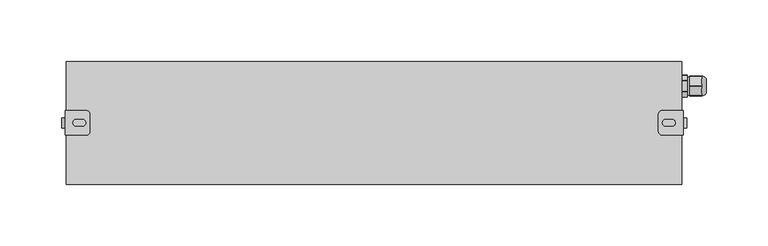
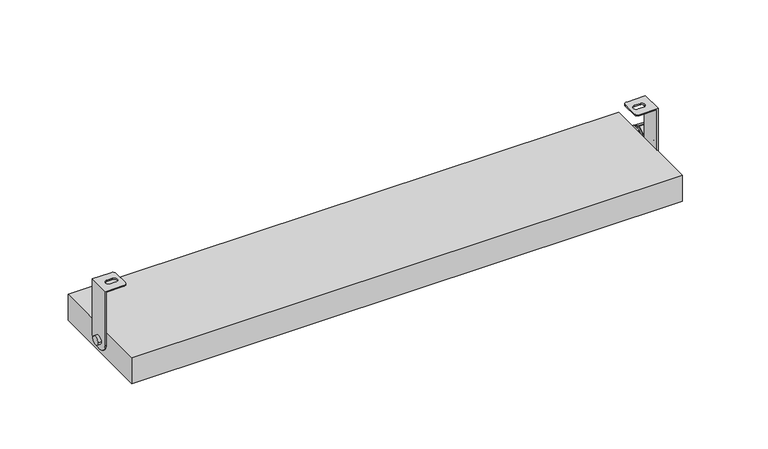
"""IFC4 building model written with IfcOpenShell, lengths in millimetres: light fixture geometry, GENILED_Светильник светодиодный_Titan Advanced : Titan Advanced 500x100x25 20Вт IP66 Опал."""

from ifc_helpers import new_model, si_unit, point, frame, frame_2d, origin, origin_with_axes, place, context, project, spatial, polyline, circle_curve, ellipse_curve, trimmed, segment, composite_curve, outline, extrude, source, transform, mapped, element, save
from ifc_brep_helpers import plane_surface, cylinder_surface, revolved_surface, advanced_brep


def light_fixture_d8a4bb4c(model_context):
    return source(origin(), model_context, "Body", "SolidModel", [
        advanced_brep(
        [(-234.0, 10.0, 64.5), (-251.0, 10.0, 64.5), (-251.0, -10.0, 64.5), (-234.0, -10.0, 64.5), (-231.0, -7.0, 64.5), (-231.0, 7.0, 64.5), (-237.0, 2.75, 64.5), (-237.0, -2.75, 64.5), (-242.0, -2.75, 64.5), (-242.0, 2.75, 64.5), (-234.0, -10.0, 63.5), (-250.0, -10.0, 63.5), (-250.0, 10.0, 63.5), (-234.0, 10.0, 63.5), (-231.0, 7.0, 63.5), (-231.0, -7.0, 63.5), (-237.0, 2.75, 63.5), (-242.0, 2.75, 63.5), (-242.0, -2.75, 63.5), (-237.0, -2.75, 63.5), (-251.0, -10.0, 12.5), (-250.0, -10.0, 12.5), (-251.0, 10.0, 12.5), (-251.0, 2.0, 4.5), (-251.0, -2.0, 4.5), (-251.0, 4.0, 12.5), (-251.0, -4.0, 12.5), (-250.0, 10.0, 12.5), (-250.0, -2.0, 4.5), (-250.0, 2.0, 4.5), (-254.0, -4.0, 12.5), (-254.0, 4.0, 12.5)],
        [
            (0, 1),
            (1, 2),
            (2, 3),
            (3, 4, circle_curve(frame((-234.0, -7.0, 64.5), z_axis=(0.0, 0.0, 1.0), x_axis=(-1.0, 0.0, 0.0)), 3.0)),
            (4, 5),
            (5, 0, circle_curve(frame((-234.0, 7.0, 64.5), z_axis=(0.0, 0.0, 1.0), x_axis=(-1.0, 0.0, 0.0)), 3.0)),
            (6, 7, circle_curve(frame((-237.0, 0.0, 64.5), z_axis=(0.0, 0.0, -1.0), x_axis=(-1.0, 0.0, 0.0)), 2.75)),
            (7, 8),
            (8, 9, circle_curve(frame((-242.0, 0.0, 64.5), z_axis=(0.0, 0.0, -1.0), x_axis=(-1.0, 0.0, 0.0)), 2.75)),
            (9, 6),
            (10, 11),
            (11, 12),
            (12, 13),
            (13, 14, circle_curve(frame((-234.0, 7.0, 63.5), z_axis=(0.0, 0.0, -1.0), x_axis=(-1.0, 0.0, 0.0)), 3.0)),
            (14, 15),
            (15, 10, circle_curve(frame((-234.0, -7.0, 63.5), z_axis=(0.0, 0.0, -1.0), x_axis=(-1.0, 0.0, 0.0)), 3.0)),
            (16, 17),
            (17, 18, circle_curve(frame((-242.0, 0.0, 63.5), z_axis=(0.0, 0.0, 1.0), x_axis=(-1.0, 0.0, 0.0)), 2.75)),
            (18, 19),
            (19, 16, circle_curve(frame((-237.0, 0.0, 63.5), z_axis=(0.0, 0.0, 1.0), x_axis=(-1.0, 0.0, 0.0)), 2.75)),
            (5, 14),
            (13, 0),
            (4, 15),
            (3, 10),
            (2, 20),
            (20, 21),
            (21, 11),
            (1, 22),
            (22, 23, circle_curve(frame((-251.0, 2.0, 12.5), z_axis=(-1.0, 0.0, 0.0), x_axis=(0.0, 1.0, 0.0)), 8.0)),
            (23, 24),
            (24, 20, circle_curve(frame((-251.0, -2.0, 12.5), z_axis=(-1.0, 0.0, 0.0), x_axis=(0.0, 1.0, 0.0)), 8.0)),
            (25, 26, circle_curve(frame((-251.0, 0.0, 12.5), z_axis=(1.0, 0.0, 0.0), x_axis=(0.0, 1.0, 0.0)), 4.0)),
            (26, 25, circle_curve(frame((-251.0, 0.0, 12.5), z_axis=(1.0, 0.0, 0.0), x_axis=(0.0, 1.0, 0.0)), 4.0)),
            (12, 27),
            (27, 22),
            (9, 17),
            (16, 6),
            (8, 18),
            (7, 19),
            (21, 28, circle_curve(frame((-250.0, -2.0, 12.5), z_axis=(1.0, 0.0, 0.0), x_axis=(0.0, 1.0, 0.0)), 8.0)),
            (28, 29),
            (29, 27, circle_curve(frame((-250.0, 2.0, 12.5), z_axis=(1.0, 0.0, 0.0), x_axis=(0.0, 1.0, 0.0)), 8.0)),
            (24, 28),
            (23, 29),
            (30, 31, circle_curve(frame((-254.0, 0.0, 12.5), z_axis=(-1.0, 0.0, 0.0), x_axis=(0.0, 1.0, 0.0)), 4.0)),
            (31, 30, circle_curve(frame((-254.0, 0.0, 12.5), z_axis=(-1.0, 0.0, 0.0), x_axis=(0.0, 1.0, 0.0)), 4.0)),
            (31, 25),
            (26, 30),
        ],
        [
            plane_surface(frame((-237.0, 7.0, 64.5), z_axis=(0.0, 0.0, 1.0), x_axis=(0.0, 1.0, 0.0))),
            plane_surface(frame((-237.0, 7.0, 63.5), z_axis=(0.0, 0.0, -1.0), x_axis=(0.0, -1.0, 0.0))),
            cylinder_surface(frame((-234.0, 7.0, 63.5), z_axis=(0.0, 0.0, 1.0), x_axis=(-1.0, 0.0, 0.0)), 3.0),
            plane_surface(frame((-231.0, 7.0, 64.5), z_axis=(1.0, 0.0, 0.0), x_axis=(0.0, 0.0, -1.0))),
            cylinder_surface(frame((-234.0, -7.0, 63.5), z_axis=(0.0, 0.0, 1.0), x_axis=(-1.0, 0.0, 0.0)), 3.0),
            plane_surface(frame((-234.0, -10.0, 64.5), z_axis=(0.0, -1.0, 0.0), x_axis=(0.0, 0.0, -1.0))),
            plane_surface(frame((-251.0, -10.0, 64.5), z_axis=(-1.0, 0.0, 0.0), x_axis=(0.0, 0.0, -1.0))),
            plane_surface(frame((-251.0, 10.0, 64.5), z_axis=(0.0, 1.0, 0.0), x_axis=(0.0, 0.0, -1.0))),
            plane_surface(frame((-237.0, 2.75, 64.5), z_axis=(0.0, -1.0, 0.0), x_axis=(0.0, 0.0, -1.0))),
            revolved_surface(polyline([(-244.75, 0.0, 63.5), (-244.75, 0.0, 64.5)]), (-242.0, 0.0, 12.5), (0.0, 0.0, -1.0)),
            plane_surface(frame((-242.0, -2.75, 64.5), z_axis=(0.0, 1.0, 0.0), x_axis=(0.0, 0.0, -1.0))),
            revolved_surface(polyline([(-239.75, 0.0, 63.5), (-239.75, 0.0, 64.5)]), (-237.0, 0.0, 12.5), (0.0, 0.0, -1.0)),
            plane_surface(frame((-250.0, -10.0, 64.5), z_axis=(1.0, 0.0, 0.0), x_axis=(0.0, 1.0, 0.0))),
            cylinder_surface(frame((-250.0, -2.0, 12.5), z_axis=(-1.0, 0.0, 0.0), x_axis=(0.0, 1.0, 0.0)), 8.0),
            plane_surface(frame((-251.0, -2.0, 4.5), z_axis=(0.0, 0.0, -1.0), x_axis=(1.0, 0.0, 0.0))),
            cylinder_surface(frame((-250.0, 2.0, 12.5), z_axis=(-1.0, 0.0, 0.0), x_axis=(0.0, 1.0, 0.0)), 8.0),
            plane_surface(frame((-254.0, 4.0, 12.5), z_axis=(-1.0, 0.0, 0.0), x_axis=(0.0, 0.0, 1.0))),
            cylinder_surface(frame((-251.0, 0.0, 12.5), z_axis=(-1.0, 0.0, 0.0), x_axis=(0.0, 1.0, 0.0)), 4.0),
        ],
        [
            (0, [[1, 2, 3, 4, 5, 6], [7, 8, 9, 10]]),
            (1, [[11, 12, 13, 14, 15, 16], [17, 18, 19, 20]]),
            (2, [[21, -14, 22, -6]]),
            (3, [[23, -15, -21, -5]]),
            (4, [[24, -16, -23, -4]]),
            (5, [[-3, 25, 26, 27, -11, -24]]),
            (6, [[28, 29, 30, 31, -25, -2], [32, 33]]),
            (7, [[-13, 34, 35, -28, -1, -22]]),
            (8, [[36, -17, 37, -10]]),
            (9, [[38, -18, -36, -9]]),
            (10, [[39, -19, -38, -8]]),
            (11, [[-37, -20, -39, -7]]),
            (12, [[-34, -12, -27, 40, 41, 42]]),
            (13, [[43, -40, -26, -31]]),
            (14, [[44, -41, -43, -30]]),
            (15, [[-35, -42, -44, -29]]),
            (16, [[45, 46]]),
            (17, [[47, -33, 48, -46]]),
            (17, [[-48, -32, -47, -45]]),
        ],
    ),
        advanced_brep(
        [(234.0, 10.0, 64.5), (231.0, 7.0, 64.5), (231.0, -7.0, 64.5), (234.0, -10.0, 64.5), (251.0, -10.0, 64.5), (251.0, 10.0, 64.5), (237.0, 2.75, 64.5), (242.0, 2.75, 64.5), (242.0, -2.75, 64.5), (237.0, -2.75, 64.5), (234.0, -10.0, 63.5), (231.0, -7.0, 63.5), (231.0, 7.0, 63.5), (234.0, 10.0, 63.5), (250.0, 10.0, 63.5), (250.0, -10.0, 63.5), (237.0, 2.75, 63.5), (237.0, -2.75, 63.5), (242.0, -2.75, 63.5), (242.0, 2.75, 63.5), (250.0, -10.0, 12.5), (251.0, -10.0, 12.5), (251.0, -2.0, 4.5), (251.0, 2.0, 4.5), (251.0, 10.0, 12.5), (251.0, 4.0, 12.5), (251.0, -4.0, 12.5), (250.0, 10.0, 12.5), (250.0, 2.0, 4.5), (250.0, -2.0, 4.5), (254.0, -4.0, 12.5), (254.0, 4.0, 12.5)],
        [
            (0, 1, circle_curve(frame((234.0, 7.0, 64.5), z_axis=(0.0, 0.0, 1.0), x_axis=(1.0, 0.0, 0.0)), 3.0)),
            (1, 2),
            (2, 3, circle_curve(frame((234.0, -7.0, 64.5), z_axis=(0.0, 0.0, 1.0), x_axis=(1.0, 0.0, 0.0)), 3.0)),
            (3, 4),
            (4, 5),
            (5, 0),
            (6, 7),
            (7, 8, circle_curve(frame((242.0, 0.0, 64.5), z_axis=(0.0, 0.0, -1.0), x_axis=(1.0, 0.0, 0.0)), 2.75)),
            (8, 9),
            (9, 6, circle_curve(frame((237.0, 0.0, 64.5), z_axis=(0.0, 0.0, -1.0), x_axis=(1.0, 0.0, 0.0)), 2.75)),
            (10, 11, circle_curve(frame((234.0, -7.0, 63.5), z_axis=(0.0, 0.0, -1.0), x_axis=(1.0, 0.0, 0.0)), 3.0)),
            (11, 12),
            (12, 13, circle_curve(frame((234.0, 7.0, 63.5), z_axis=(0.0, 0.0, -1.0), x_axis=(1.0, 0.0, 0.0)), 3.0)),
            (13, 14),
            (14, 15),
            (15, 10),
            (16, 17, circle_curve(frame((237.0, 0.0, 63.5), z_axis=(0.0, 0.0, 1.0), x_axis=(1.0, 0.0, 0.0)), 2.75)),
            (17, 18),
            (18, 19, circle_curve(frame((242.0, 0.0, 63.5), z_axis=(0.0, 0.0, 1.0), x_axis=(1.0, 0.0, 0.0)), 2.75)),
            (19, 16),
            (0, 13),
            (12, 1),
            (11, 2),
            (10, 3),
            (15, 20),
            (20, 21),
            (21, 4),
            (21, 22, circle_curve(frame((251.0, -2.0, 12.5), z_axis=(1.0, 0.0, 0.0), x_axis=(0.0, 1.0, 0.0)), 8.0)),
            (22, 23),
            (23, 24, circle_curve(frame((251.0, 2.0, 12.5), z_axis=(1.0, 0.0, 0.0), x_axis=(0.0, 1.0, 0.0)), 8.0)),
            (24, 5),
            (25, 26, circle_curve(frame((251.0, 0.0, 12.5), z_axis=(-1.0, 0.0, 0.0), x_axis=(0.0, 1.0, 0.0)), 4.0)),
            (26, 25, circle_curve(frame((251.0, 0.0, 12.5), z_axis=(-1.0, 0.0, 0.0), x_axis=(0.0, 1.0, 0.0)), 4.0)),
            (24, 27),
            (27, 14),
            (6, 16),
            (19, 7),
            (18, 8),
            (17, 9),
            (27, 28, circle_curve(frame((250.0, 2.0, 12.5), z_axis=(-1.0, 0.0, 0.0), x_axis=(0.0, 1.0, 0.0)), 8.0)),
            (28, 29),
            (29, 20, circle_curve(frame((250.0, -2.0, 12.5), z_axis=(-1.0, 0.0, 0.0), x_axis=(0.0, 1.0, 0.0)), 8.0)),
            (29, 22),
            (28, 23),
            (30, 31, circle_curve(frame((254.0, 0.0, 12.5), z_axis=(1.0, 0.0, 0.0), x_axis=(0.0, 1.0, 0.0)), 4.0)),
            (31, 30, circle_curve(frame((254.0, 0.0, 12.5), z_axis=(1.0, 0.0, 0.0), x_axis=(0.0, 1.0, 0.0)), 4.0)),
            (30, 26),
            (25, 31),
        ],
        [
            plane_surface(frame((237.0, 7.0, 64.5), z_axis=(0.0, 0.0, 1.0), x_axis=(0.0, 1.0, 0.0))),
            plane_surface(frame((237.0, 7.0, 63.5), z_axis=(0.0, 0.0, -1.0), x_axis=(0.0, -1.0, 0.0))),
            cylinder_surface(frame((234.0, 7.0, 63.5), z_axis=(0.0, 0.0, 1.0), x_axis=(1.0, 0.0, 0.0)), 3.0),
            plane_surface(frame((231.0, 7.0, 64.5), z_axis=(-1.0, 0.0, 0.0), x_axis=(0.0, 0.0, -1.0))),
            cylinder_surface(frame((234.0, -7.0, 63.5), z_axis=(0.0, 0.0, 1.0), x_axis=(1.0, 0.0, 0.0)), 3.0),
            plane_surface(frame((234.0, -10.0, 64.5), z_axis=(0.0, -1.0, 0.0), x_axis=(0.0, 0.0, -1.0))),
            plane_surface(frame((251.0, -10.0, 64.5), z_axis=(1.0, 0.0, 0.0), x_axis=(0.0, 0.0, -1.0))),
            plane_surface(frame((251.0, 10.0, 64.5), z_axis=(0.0, 1.0, 0.0), x_axis=(0.0, 0.0, -1.0))),
            plane_surface(frame((237.0, 2.75, 64.5), z_axis=(0.0, -1.0, 0.0), x_axis=(0.0, 0.0, -1.0))),
            revolved_surface(polyline([(244.75, 0.0, 63.5), (244.75, 0.0, 64.5)]), (242.0, 0.0, 12.5), (0.0, 0.0, -1.0)),
            plane_surface(frame((242.0, -2.75, 64.5), z_axis=(0.0, 1.0, 0.0), x_axis=(0.0, 0.0, -1.0))),
            revolved_surface(polyline([(239.75, 0.0, 63.5), (239.75, 0.0, 64.5)]), (237.0, 0.0, 12.5), (0.0, 0.0, -1.0)),
            plane_surface(frame((250.0, -10.0, 64.5), z_axis=(-1.0, 0.0, 0.0), x_axis=(0.0, 1.0, 0.0))),
            cylinder_surface(frame((250.0, -2.0, 12.5), z_axis=(1.0, 0.0, 0.0), x_axis=(0.0, 1.0, 0.0)), 8.0),
            plane_surface(frame((251.0, -2.0, 4.5), z_axis=(0.0, 0.0, -1.0), x_axis=(-1.0, 0.0, 0.0))),
            cylinder_surface(frame((250.0, 2.0, 12.5), z_axis=(1.0, 0.0, 0.0), x_axis=(0.0, 1.0, 0.0)), 8.0),
            plane_surface(frame((254.0, 4.0, 12.5), z_axis=(1.0, 0.0, 0.0), x_axis=(0.0, 0.0, 1.0))),
            cylinder_surface(frame((251.0, 0.0, 12.5), z_axis=(1.0, 0.0, 0.0), x_axis=(0.0, 1.0, 0.0)), 4.0),
        ],
        [
            (0, [[1, 2, 3, 4, 5, 6], [7, 8, 9, 10]]),
            (1, [[11, 12, 13, 14, 15, 16], [17, 18, 19, 20]]),
            (2, [[-1, 21, -13, 22]]),
            (3, [[-2, -22, -12, 23]]),
            (4, [[-3, -23, -11, 24]]),
            (5, [[-24, -16, 25, 26, 27, -4]]),
            (6, [[-5, -27, 28, 29, 30, 31], [32, 33]]),
            (7, [[-21, -6, -31, 34, 35, -14]]),
            (8, [[-7, 36, -20, 37]]),
            (9, [[-8, -37, -19, 38]]),
            (10, [[-9, -38, -18, 39]]),
            (11, [[-10, -39, -17, -36]]),
            (12, [[40, 41, 42, -25, -15, -35]]),
            (13, [[-28, -26, -42, 43]]),
            (14, [[-29, -43, -41, 44]]),
            (15, [[-30, -44, -40, -34]]),
            (16, [[45, 46]]),
            (17, [[-45, 47, -32, 48]]),
            (17, [[-46, -48, -33, -47]]),
        ],
    ),
        advanced_brep(
        [(270.0120269, 24.15, 12.5), (270.0120269, 35.85, 12.5), (270.0120269, 33.5, 12.5), (270.0120269, 26.5, 12.5), (266.0120269, 22.0, 12.5), (266.0120269, 26.0, 5.5717968), (266.0120269, 34.0, 5.5717968), (266.0120269, 38.0, 12.5), (266.0120269, 34.0, 19.4282032), (266.0120269, 26.0, 19.4282032), (266.0120269, 33.5, 12.5), (266.0120269, 26.5, 12.5), (266.0120269, 22.0, 8.3768944), (266.0120269, 22.4292858, 7.6333496), (266.0120269, 29.5707142, 3.510244), (266.0120269, 30.4292858, 3.510244), (266.0120269, 37.5707142, 7.6333496), (266.0120269, 38.0, 8.3768944), (266.0120269, 38.0, 16.6231056), (266.0120269, 37.5707142, 17.3666504), (266.0120269, 30.4292858, 21.489756), (266.0120269, 29.5707142, 21.489756), (266.0120269, 22.4292858, 17.3666504), (266.0120269, 22.0, 16.6231056), (256.6, 29.5707142, 3.510244), (256.6, 22.4292858, 7.6333496), (256.6, 22.0, 8.3768944), (256.6, 22.0, 16.6231056), (256.6, 22.4292858, 17.3666504), (256.6, 29.5707142, 21.489756), (256.6, 30.4292858, 21.489756), (256.6, 37.5707142, 17.3666504), (256.6, 38.0, 16.6231056), (256.6, 38.0, 8.3768944), (256.6, 37.5707142, 7.6333496), (256.6, 30.4292858, 3.510244), (256.6, 37.25, 12.5), (256.6, 22.75, 12.5), (254.6, 37.25, 12.5), (254.6, 22.75, 12.5), (254.6, 38.989756, 12.9292858), (254.6, 34.8666504, 20.0707142), (254.6, 34.1231056, 20.5), (254.6, 25.8768944, 20.5), (254.6, 25.1333496, 20.0707142), (254.6, 21.010244, 12.9292858), (254.6, 21.0, 12.5), (254.6, 21.010244, 12.0707142), (254.6, 25.1333496, 4.9292858), (254.6, 25.8768944, 4.5), (254.6, 34.1231056, 4.5), (254.6, 34.8666504, 4.9292858), (254.6, 38.989756, 12.0707142), (254.6, 39.0, 12.5), (250.0, 38.989756, 12.0707142), (250.0, 34.8666504, 4.9292858), (250.0, 34.1231056, 4.5), (250.0, 25.8768944, 4.5), (250.0, 25.1333496, 4.9292858), (250.0, 21.010244, 12.0707142), (250.0, 21.0, 12.5), (250.0, 21.010244, 12.9292858), (250.0, 25.1333496, 20.0707142), (250.0, 25.8768944, 20.5), (250.0, 34.1231056, 20.5), (250.0, 34.8666504, 20.0707142), (250.0, 38.989756, 12.9292858), (250.0, 39.0, 12.5)],
        [
            (0, 1, circle_curve(frame((270.0120269, 30.0, 12.5), z_axis=(1.0, 0.0, 0.0), x_axis=(0.0, 1.0, 0.0)), 5.85)),
            (1, 2),
            (2, 3, circle_curve(frame((270.0120269, 30.0, 12.5), z_axis=(-1.0, 0.0, 0.0), x_axis=(0.0, 1.0, 0.0)), 3.5)),
            (3, 0),
            (1, 0, circle_curve(frame((270.0120269, 30.0, 12.5), z_axis=(1.0, 0.0, 0.0), x_axis=(0.0, 1.0, 0.0)), 5.85)),
            (3, 2, circle_curve(frame((270.0120269, 30.0, 12.5), z_axis=(-1.0, 0.0, 0.0), x_axis=(0.0, 1.0, 0.0)), 3.5)),
            (0, 4, circle_curve(frame((265.6269324, 27.5123851, 12.5), z_axis=(0.0, 0.0, -1.0), x_axis=(0.0, 1.0, 0.0)), 5.5258201)),
            (4, 5, circle_curve(frame((266.0120269, 30.0, 12.5), z_axis=(1.0, 0.0, 0.0), x_axis=(0.0, 1.0, 0.0)), 8.0)),
            (5, 6, circle_curve(frame((266.0120269, 30.0, 12.5), z_axis=(1.0, 0.0, 0.0), x_axis=(0.0, 1.0, 0.0)), 8.0)),
            (6, 7, circle_curve(frame((266.0120269, 30.0, 12.5), z_axis=(1.0, 0.0, 0.0), x_axis=(0.0, 1.0, 0.0)), 8.0)),
            (7, 1, circle_curve(frame((265.6269324, 32.4876149, 12.5), z_axis=(0.0, 0.0, -1.0), x_axis=(0.0, -1.0, 0.0)), 5.5258201)),
            (7, 8, circle_curve(frame((266.0120269, 30.0, 12.5), z_axis=(1.0, 0.0, 0.0), x_axis=(0.0, 1.0, 0.0)), 8.0)),
            (8, 9, circle_curve(frame((266.0120269, 30.0, 12.5), z_axis=(1.0, 0.0, 0.0), x_axis=(0.0, 1.0, 0.0)), 8.0)),
            (9, 4, circle_curve(frame((266.0120269, 30.0, 12.5), z_axis=(1.0, 0.0, 0.0), x_axis=(0.0, 1.0, 0.0)), 8.0)),
            (2, 10),
            (10, 11, circle_curve(frame((266.0120269, 30.0, 12.5), z_axis=(-1.0, 0.0, 0.0), x_axis=(0.0, 1.0, 0.0)), 3.5)),
            (11, 3),
            (11, 10, circle_curve(frame((266.0120269, 30.0, 12.5), z_axis=(-1.0, 0.0, 0.0), x_axis=(0.0, 1.0, 0.0)), 3.5)),
            (4, 12),
            (12, 13, circle_curve(frame((266.0120269, 30.0, 12.5), z_axis=(1.0, 0.0, 0.0), x_axis=(0.0, -1.0, 0.0)), 9.0)),
            (13, 5),
            (5, 14),
            (14, 15, circle_curve(frame((266.0120269, 30.0, 12.5), z_axis=(1.0, 0.0, 0.0), x_axis=(0.0, -1.0, 0.0)), 9.0)),
            (15, 6),
            (6, 16),
            (16, 17, circle_curve(frame((266.0120269, 30.0, 12.5), z_axis=(1.0, 0.0, 0.0), x_axis=(0.0, -1.0, 0.0)), 9.0)),
            (17, 7),
            (7, 18),
            (18, 19, circle_curve(frame((266.0120269, 30.0, 12.5), z_axis=(1.0, 0.0, 0.0), x_axis=(0.0, -1.0, 0.0)), 9.0)),
            (19, 8),
            (8, 20),
            (20, 21, circle_curve(frame((266.0120269, 30.0, 12.5), z_axis=(1.0, 0.0, 0.0), x_axis=(0.0, -1.0, 0.0)), 9.0)),
            (21, 9),
            (9, 22),
            (22, 23, circle_curve(frame((266.0120269, 30.0, 12.5), z_axis=(1.0, 0.0, 0.0), x_axis=(0.0, -1.0, 0.0)), 9.0)),
            (23, 4),
            (24, 25),
            (25, 26, circle_curve(frame((256.6, 30.0, 12.5), z_axis=(-1.0, 0.0, 0.0), x_axis=(0.0, -1.0, 0.0)), 9.0)),
            (26, 27),
            (27, 28, circle_curve(frame((256.6, 30.0, 12.5), z_axis=(-1.0, 0.0, 0.0), x_axis=(0.0, -1.0, 0.0)), 9.0)),
            (28, 29),
            (29, 30, circle_curve(frame((256.6, 30.0, 12.5), z_axis=(-1.0, 0.0, 0.0), x_axis=(0.0, -1.0, 0.0)), 9.0)),
            (30, 31),
            (31, 32, circle_curve(frame((256.6, 30.0, 12.5), z_axis=(-1.0, 0.0, 0.0), x_axis=(0.0, -1.0, 0.0)), 9.0)),
            (32, 33),
            (33, 34, circle_curve(frame((256.6, 30.0, 12.5), z_axis=(-1.0, 0.0, 0.0), x_axis=(0.0, -1.0, 0.0)), 9.0)),
            (34, 35),
            (35, 24, circle_curve(frame((256.6, 30.0, 12.5), z_axis=(-1.0, 0.0, 0.0), x_axis=(0.0, -1.0, 0.0)), 9.0)),
            (36, 37, circle_curve(frame((256.6, 30.0, 12.5), z_axis=(1.0, 0.0, 0.0), x_axis=(0.0, -1.0, 0.0)), 7.25)),
            (37, 36, circle_curve(frame((256.6, 30.0, 12.5), z_axis=(1.0, 0.0, 0.0), x_axis=(0.0, -1.0, 0.0)), 7.25)),
            (15, 35),
            (34, 16),
            (17, 33),
            (32, 18),
            (19, 31),
            (30, 20),
            (21, 29),
            (28, 22),
            (23, 27),
            (26, 12),
            (13, 25),
            (24, 14),
            (36, 38),
            (38, 39, circle_curve(frame((254.6, 30.0, 12.5), z_axis=(1.0, 0.0, 0.0), x_axis=(0.0, -1.0, 0.0)), 7.25)),
            (39, 37),
            (39, 38, circle_curve(frame((254.6, 30.0, 12.5), z_axis=(1.0, 0.0, 0.0), x_axis=(0.0, -1.0, 0.0)), 7.25)),
            (40, 41),
            (41, 42, circle_curve(frame((254.6, 30.0, 12.5), z_axis=(1.0, 0.0, 0.0), x_axis=(0.0, -1.0, 0.0)), 9.0)),
            (42, 43),
            (43, 44, circle_curve(frame((254.6, 30.0, 12.5), z_axis=(1.0, 0.0, 0.0), x_axis=(0.0, -1.0, 0.0)), 9.0)),
            (44, 45),
            (45, 46, circle_curve(frame((254.6, 30.0, 12.5), z_axis=(1.0, 0.0, 0.0), x_axis=(0.0, -1.0, 0.0)), 9.0)),
            (46, 47, circle_curve(frame((254.6, 30.0, 12.5), z_axis=(1.0, 0.0, 0.0), x_axis=(0.0, -1.0, 0.0)), 9.0)),
            (47, 48),
            (48, 49, circle_curve(frame((254.6, 30.0, 12.5), z_axis=(1.0, 0.0, 0.0), x_axis=(0.0, -1.0, 0.0)), 9.0)),
            (49, 50),
            (50, 51, circle_curve(frame((254.6, 30.0, 12.5), z_axis=(1.0, 0.0, 0.0), x_axis=(0.0, -1.0, 0.0)), 9.0)),
            (51, 52),
            (52, 53, circle_curve(frame((254.6, 30.0, 12.5), z_axis=(1.0, 0.0, 0.0), x_axis=(0.0, -1.0, 0.0)), 9.0)),
            (53, 40, circle_curve(frame((254.6, 30.0, 12.5), z_axis=(1.0, 0.0, 0.0), x_axis=(0.0, -1.0, 0.0)), 9.0)),
            (54, 55),
            (55, 56, circle_curve(frame((250.0, 30.0, 12.5), z_axis=(-1.0, 0.0, 0.0), x_axis=(0.0, -1.0, 0.0)), 9.0)),
            (56, 57),
            (57, 58, circle_curve(frame((250.0, 30.0, 12.5), z_axis=(-1.0, 0.0, 0.0), x_axis=(0.0, -1.0, 0.0)), 9.0)),
            (58, 59),
            (59, 60, circle_curve(frame((250.0, 30.0, 12.5), z_axis=(-1.0, 0.0, 0.0), x_axis=(0.0, -1.0, 0.0)), 9.0)),
            (60, 61, circle_curve(frame((250.0, 30.0, 12.5), z_axis=(-1.0, 0.0, 0.0), x_axis=(0.0, -1.0, 0.0)), 9.0)),
            (61, 62),
            (62, 63, circle_curve(frame((250.0, 30.0, 12.5), z_axis=(-1.0, 0.0, 0.0), x_axis=(0.0, -1.0, 0.0)), 9.0)),
            (63, 64),
            (64, 65, circle_curve(frame((250.0, 30.0, 12.5), z_axis=(-1.0, 0.0, 0.0), x_axis=(0.0, -1.0, 0.0)), 9.0)),
            (65, 66),
            (66, 67, circle_curve(frame((250.0, 30.0, 12.5), z_axis=(-1.0, 0.0, 0.0), x_axis=(0.0, -1.0, 0.0)), 9.0)),
            (67, 54, circle_curve(frame((250.0, 30.0, 12.5), z_axis=(-1.0, 0.0, 0.0), x_axis=(0.0, -1.0, 0.0)), 9.0)),
            (40, 66),
            (65, 41),
            (42, 64),
            (63, 43),
            (44, 62),
            (61, 45),
            (47, 59),
            (58, 48),
            (49, 57),
            (56, 50),
            (51, 55),
            (54, 52),
            (67, 53),
            (46, 60),
        ],
        [
            plane_surface(frame((270.0120269, 30.0, 12.5), z_axis=(1.0, 0.0, 0.0), x_axis=(0.0, 1.0, 0.0))),
            revolved_surface(trimmed(ellipse_curve(frame((265.6269324, 32.4876149, 12.5), z_axis=(0.0, 0.0, 1.0), x_axis=(0.0, -1.0, 0.0)), 5.5258201, 5.5258201), [point((270.0120269, 35.85, 12.5))], [point((266.0120269, 38.0, 12.5))], True, "CARTESIAN"), (266.0120269, 30.0, 12.5), (-1.0, 0.0, 0.0)),
            revolved_surface(polyline([(266.0120269, 33.5, 12.5), (270.0120269, 33.5, 12.5)]), (266.0120269, 30.0, 12.5), (-1.0, 0.0, 0.0)),
            plane_surface(frame((266.0120269, 30.0, 3.2623957), z_axis=(1.0000000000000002, 0.0, 0.0), x_axis=(0.0, 0.8660254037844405, 0.49999999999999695))),
            plane_surface(frame((256.6, 30.0, 3.2623957), z_axis=(-1.0000000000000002, 0.0, 0.0), x_axis=(0.0, -0.8660254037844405, -0.49999999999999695))),
            plane_surface(frame((266.0120269, 30.0, 3.2623957), z_axis=(0.0, 0.49999999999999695, -0.8660254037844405), x_axis=(-1.0, 0.0, 0.0))),
            plane_surface(frame((266.0120269, 38.0, 7.8811978), z_axis=(0.0, 1.0, 0.0), x_axis=(-1.0, 0.0, 0.0))),
            plane_surface(frame((266.0120269, 38.0, 17.1188022), z_axis=(0.0, 0.5000000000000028, 0.8660254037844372), x_axis=(-1.0, 0.0, 0.0))),
            plane_surface(frame((266.0120269, 30.0, 21.7376043), z_axis=(0.0, -0.49999999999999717, 0.8660254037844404), x_axis=(-1.0, 0.0, 0.0))),
            plane_surface(frame((266.0120269, 22.0, 17.1188022), z_axis=(0.0, -1.0, 0.0), x_axis=(-1.0, 0.0, 0.0))),
            plane_surface(frame((266.0120269, 22.0, 7.8811978), z_axis=(0.0, -0.5000000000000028, -0.8660254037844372), x_axis=(-1.0, 0.0, 0.0))),
            cylinder_surface(frame((254.6, 30.0, 12.5), z_axis=(1.0, 0.0, 0.0), x_axis=(0.0, -1.0, 0.0)), 7.25),
            plane_surface(frame((254.6, 39.2376043, 12.5), z_axis=(1.0, 0.0, 0.0), x_axis=(0.0, -0.5000000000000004, 0.8660254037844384))),
            plane_surface(frame((250.0, 39.2376043, 12.5), z_axis=(-1.0, 0.0, 0.0), x_axis=(0.0, 0.5000000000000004, -0.8660254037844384))),
            plane_surface(frame((254.6, 39.2376043, 12.5), z_axis=(0.0, 0.8660254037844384, 0.5000000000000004), x_axis=(-1.0, 0.0, 0.0))),
            plane_surface(frame((254.6, 34.6188022, 20.5), z_axis=(0.0, 0.0, 1.0), x_axis=(-1.0, 0.0, 0.0))),
            plane_surface(frame((254.6, 25.3811978, 20.5), z_axis=(0.0, -0.866025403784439, 0.49999999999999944), x_axis=(-1.0, 0.0, 0.0))),
            plane_surface(frame((254.6, 20.7623957, 12.5), z_axis=(0.0, -0.8660254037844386, -0.5000000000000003), x_axis=(-1.0, 0.0, 0.0))),
            plane_surface(frame((254.6, 25.3811978, 4.5), z_axis=(0.0, 0.0, -1.0), x_axis=(-1.0, 0.0, 0.0))),
            plane_surface(frame((254.6, 34.6188022, 4.5), z_axis=(0.0, 0.8660254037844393, -0.49999999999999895), x_axis=(-1.0, 0.0, 0.0))),
            cylinder_surface(frame((250.0, 30.0, 12.5), z_axis=(-1.0, 0.0, 0.0), x_axis=(0.0, -1.0, 0.0)), 9.0),
        ],
        [
            (0, [[1, 2, 3, 4]]),
            (0, [[-2, 5, -4, 6]]),
            (1, [[-1, 7, 8, 9, 10, 11]]),
            (1, [[-5, -11, 12, 13, 14, -7]]),
            (2, [[-3, 15, 16, 17]]),
            (2, [[-6, -17, 18, -15]]),
            (3, [[-8, 19, 20, 21]]),
            (3, [[-9, 22, 23, 24]]),
            (3, [[-10, 25, 26, 27]]),
            (3, [[-12, 28, 29, 30]]),
            (3, [[-13, 31, 32, 33]]),
            (3, [[-14, 34, 35, 36]]),
            (3, [[-16, -18]]),
            (4, [[37, 38, 39, 40, 41, 42, 43, 44, 45, 46, 47, 48], [49, 50]]),
            (5, [[-25, -24, 51, -47, 52]]),
            (6, [[-27, 53, -45, 54, -28]]),
            (7, [[-30, 55, -43, 56, -31]]),
            (8, [[-34, -33, 57, -41, 58]]),
            (9, [[-36, 59, -39, 60, -19]]),
            (10, [[-21, 61, -37, 62, -22]]),
            (11, [[63, 64, 65, -49]]),
            (11, [[-63, -50, -65, 66]]),
            (12, [[67, 68, 69, 70, 71, 72, 73, 74, 75, 76, 77, 78, 79, 80], [-64, -66]]),
            (13, [[81, 82, 83, 84, 85, 86, 87, 88, 89, 90, 91, 92, 93, 94]]),
            (14, [[-67, 95, -92, 96]]),
            (15, [[-69, 97, -90, 98]]),
            (16, [[-71, 99, -88, 100]]),
            (17, [[-74, 101, -85, 102]]),
            (18, [[-76, 103, -83, 104]]),
            (19, [[-78, 105, -81, 106]]),
            (20, [[-20, -60, -38, -61]]),
            (20, [[-23, -62, -48, -51]]),
            (20, [[-26, -52, -46, -53]]),
            (20, [[-75, -102, -84, -103]]),
            (20, [[-77, -104, -82, -105]]),
            (20, [[107, -79, -106, -94]]),
            (20, [[108, -86, -101, -73]]),
            (20, [[-29, -54, -44, -55]]),
            (20, [[-32, -56, -42, -57]]),
            (20, [[-35, -58, -40, -59]]),
            (20, [[-68, -96, -91, -97]]),
            (20, [[-70, -98, -89, -99]]),
            (20, [[-107, -93, -95, -80]]),
            (20, [[-108, -72, -100, -87]]),
        ],
    ),
        advanced_brep(
        [(250.0, 50.0, 25.0), (-250.0, 50.0, 25.0), (-250.0, -50.0, 25.0), (250.0, -50.0, 25.0), (250.0, 50.0, 0.0), (250.0, -50.0, 0.0), (-250.0, -50.0, 0.0), (-250.0, 50.0, 0.0), (220.0, 35.0, 0.0), (-220.0, 35.0, 0.0), (-235.0, 20.0, 0.0), (-235.0, -20.0, 0.0), (-220.0, -35.0, 0.0), (220.0, -35.0, 0.0), (235.0, -20.0, 0.0), (235.0, 20.0, 0.0), (235.0, 20.0, 5.0), (220.0, 35.0, 5.0), (235.0, -20.0, 5.0), (220.0, -35.0, 5.0), (-220.0, -35.0, 5.0), (-235.0, -20.0, 5.0), (-235.0, 20.0, 5.0), (-220.0, 35.0, 5.0)],
        [
            (0, 1),
            (1, 2),
            (2, 3),
            (3, 0),
            (4, 5),
            (5, 6),
            (6, 7),
            (7, 4),
            (8, 9),
            (9, 10, circle_curve(frame((-220.0, 20.0, 0.0), z_axis=(0.0, 0.0, 1.0), x_axis=(1.0, 0.0, 0.0)), 15.0)),
            (10, 11),
            (11, 12, circle_curve(frame((-220.0, -20.0, 0.0), z_axis=(0.0, 0.0, 1.0), x_axis=(1.0, 0.0, 0.0)), 15.0)),
            (12, 13),
            (13, 14, circle_curve(frame((220.0, -20.0, 0.0), z_axis=(0.0, 0.0, 1.0), x_axis=(1.0, 0.0, 0.0)), 15.0)),
            (14, 15),
            (15, 8, circle_curve(frame((220.0, 20.0, 0.0), z_axis=(0.0, 0.0, 1.0), x_axis=(1.0, 0.0, 0.0)), 15.0)),
            (0, 4),
            (7, 1),
            (6, 2),
            (5, 3),
            (15, 16),
            (16, 17, circle_curve(frame((220.0, 20.0, 5.0), z_axis=(0.0, 0.0, 1.0), x_axis=(1.0, 0.0, 0.0)), 15.0)),
            (17, 8),
            (14, 18),
            (18, 16),
            (13, 19),
            (19, 18, circle_curve(frame((220.0, -20.0, 5.0), z_axis=(0.0, 0.0, 1.0), x_axis=(1.0, 0.0, 0.0)), 15.0)),
            (12, 20),
            (20, 19),
            (11, 21),
            (21, 20, circle_curve(frame((-220.0, -20.0, 5.0), z_axis=(0.0, 0.0, 1.0), x_axis=(1.0, 0.0, 0.0)), 15.0)),
            (10, 22),
            (22, 21),
            (9, 23),
            (23, 22, circle_curve(frame((-220.0, 20.0, 5.0), z_axis=(0.0, 0.0, 1.0), x_axis=(1.0, 0.0, 0.0)), 15.0)),
            (17, 23),
        ],
        [
            plane_surface(frame((-250.0, 50.0, 25.0), z_axis=(0.0, 0.0, 1.0), x_axis=(-1.0, 0.0, 0.0))),
            plane_surface(frame((-250.0, 50.0, 0.0), z_axis=(0.0, 0.0, -1.0), x_axis=(1.0, 0.0, 0.0))),
            plane_surface(frame((250.0, 50.0, 25.0), z_axis=(0.0, 1.0, 0.0), x_axis=(0.0, 0.0, -1.0))),
            plane_surface(frame((-250.0, 50.0, 25.0), z_axis=(-1.0, 0.0, 0.0), x_axis=(0.0, 0.0, -1.0))),
            plane_surface(frame((-250.0, -50.0, 25.0), z_axis=(0.0, -1.0, 0.0), x_axis=(0.0, 0.0, -1.0))),
            plane_surface(frame((250.0, -50.0, 25.0), z_axis=(1.0, 0.0, 0.0), x_axis=(0.0, 0.0, -1.0))),
            revolved_surface(polyline([(235.0, 20.0, 0.0), (235.0, 20.0, 5.0)]), (220.0, 20.0, 0.0), (0.0, 0.0, -1.0)),
            plane_surface(frame((235.0, 20.0, 25.0), z_axis=(-1.0, 0.0, 0.0), x_axis=(0.0, 0.0, -1.0))),
            revolved_surface(polyline([(235.0, -20.0, 0.0), (235.0, -20.0, 5.0)]), (220.0, -20.0, 0.0), (0.0, 0.0, -1.0)),
            plane_surface(frame((220.0, -35.0, 25.0), z_axis=(0.0, 1.0, 0.0), x_axis=(0.0, 0.0, -1.0))),
            revolved_surface(polyline([(-205.0, -20.0, 0.0), (-205.0, -20.0, 5.0)]), (-220.0, -20.0, 0.0), (0.0, 0.0, -1.0)),
            plane_surface(frame((-235.0, -20.0, 25.0), z_axis=(1.0, 0.0, 0.0), x_axis=(0.0, 0.0, -1.0))),
            revolved_surface(polyline([(-205.0, 20.0, 0.0), (-205.0, 20.0, 5.0)]), (-220.0, 20.0, 0.0), (0.0, 0.0, -1.0)),
            plane_surface(frame((-220.0, 35.0, 25.0), z_axis=(0.0, -1.0, 0.0), x_axis=(0.0, 0.0, -1.0))),
            plane_surface(frame((-220.0, 35.0, 5.0), z_axis=(0.0, 0.0, -1.0), x_axis=(1.0, 0.0, 0.0))),
        ],
        [
            (0, [[1, 2, 3, 4]]),
            (1, [[5, 6, 7, 8], [9, 10, 11, 12, 13, 14, 15, 16]]),
            (2, [[-1, 17, -8, 18]]),
            (3, [[-2, -18, -7, 19]]),
            (4, [[-3, -19, -6, 20]]),
            (5, [[-4, -20, -5, -17]]),
            (6, [[-16, 21, 22, 23]]),
            (7, [[-15, 24, 25, -21]]),
            (8, [[-14, 26, 27, -24]]),
            (9, [[-13, 28, 29, -26]]),
            (10, [[-12, 30, 31, -28]]),
            (11, [[-11, 32, 33, -30]]),
            (12, [[-10, 34, 35, -32]]),
            (13, [[-9, -23, 36, -34]]),
            (14, [[-22, -25, -27, -29, -31, -33, -35, -36]]),
        ],
    ),
        extrude(outline(composite_curve([segment(trimmed(circle_curve(frame_2d((220.0, 20.0)), 15.0), [point((220.0, 35.0))], [point((235.0, 20.0))], False, "CARTESIAN"), True, "CONTINUOUS"), segment(polyline([(235.0, 20.0), (235.0, -20.0)]), True, "CONTINUOUS"), segment(trimmed(circle_curve(frame_2d((220.0, -20.0)), 15.0), [point((235.0, -20.0))], [point((220.0, -35.0))], False, "CARTESIAN"), True, "CONTINUOUS"), segment(polyline([(220.0, -35.0), (-220.0, -35.0)]), True, "CONTINUOUS"), segment(trimmed(circle_curve(frame_2d((-220.0, -20.0)), 15.0), [point((-220.0, -35.0))], [point((-235.0, -20.0))], False, "CARTESIAN"), True, "CONTINUOUS"), segment(polyline([(-235.0, -20.0), (-235.0, 20.0)]), True, "CONTINUOUS"), segment(trimmed(circle_curve(frame_2d((-220.0, 20.0)), 15.0), [point((-235.0, 20.0))], [point((-220.0, 35.0))], False, "CARTESIAN"), True, "CONTINUOUS"), segment(polyline([(-220.0, 35.0), (220.0, 35.0)]), True, "CONTINUOUS")], self_intersect=False)), origin_with_axes(), (0.0, 0.0, 1.0), 5.0),
    ])


if __name__ == "__main__":
    model = new_model("IFC4")
    model_context = context("Model", 3, world=origin())
    ifc_project = project(units=[si_unit("LENGTHUNIT", "METRE", prefix="MILLI")], contexts=[model_context])
    site = spatial("IfcSite", under=ifc_project)
    building = spatial("IfcBuilding", under=site)
    placement = place(None, origin())
    light_fixture_shape = light_fixture_d8a4bb4c(model_context)
    element("IfcLightFixture", 1, ObjectType="GENILED_Светильник светодиодный_Titan Advanced : Titan Advanced 500x100x25 20Вт IP66 Опал", at=placement, inside=building, context=model_context, shape_type="MappedRepresentation", body=[
        mapped(light_fixture_shape, transform((0.0, 0.0, 0.0), x_axis=(1.0, 0.0, 0.0), y_axis=(0.0, 1.0, 0.0), z_axis=(0.0, 0.0, 1.0))),
    ])
    save(model, "model.ifc")
